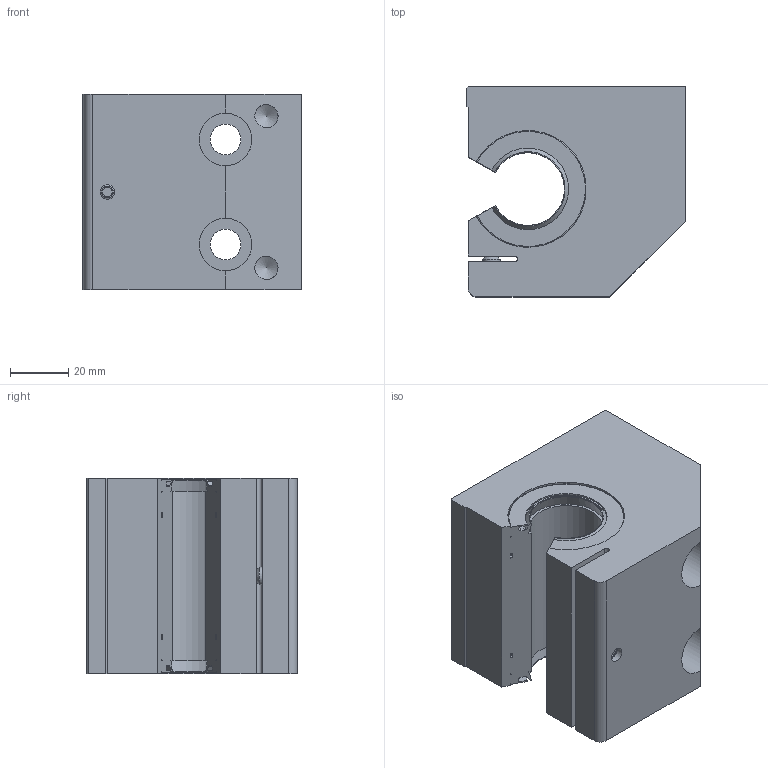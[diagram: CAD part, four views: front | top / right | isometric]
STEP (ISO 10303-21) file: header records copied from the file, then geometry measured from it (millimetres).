
FILE_DESCRIPTION(('STEP AP203'),'1');
FILE_NAME('//192.168.1.1/share/s-4 技術開発/s-4-4_CAD/s-4-4-3_見直し済み/008 修正済み/SLS-OPY/SLS-OPY_TOP/SLS-25-OPY.step','2022-03-10T07:32:38',(' '),(' '),'Spatial InterOp 3D',' ',' ');
FILE_SCHEMA(('CONFIG_CONTROL_DESIGN'));
Length unit declared in the file: millimetre
Products named in the file (1): 1
Bounding box: 75 x 72 x 67 mm (x, y, z)
Volume: 269570.6 mm3; surface area: 42875.4 mm2
Topology: 1 solids, 3 shells, 94 faces, 258 edges, 172 vertices
Faces by surface type: plane 44, cylinder 33, cone 9, torus 8
Full cylindrical faces by diameter (mm): 3 x1, 3.5 x1, 5 x1, 6 x1, 7 x2, 8 x2, 10.5 x4, 18 x2
Entity records: 3027 total; most frequent: CARTESIAN_POINT 697, DIRECTION 465, ORIENTED_EDGE 452, EDGE_CURVE 226, AXIS2_PLACEMENT_3D 170, VERTEX_POINT 162, EDGE_LOOP 129, LINE 125
